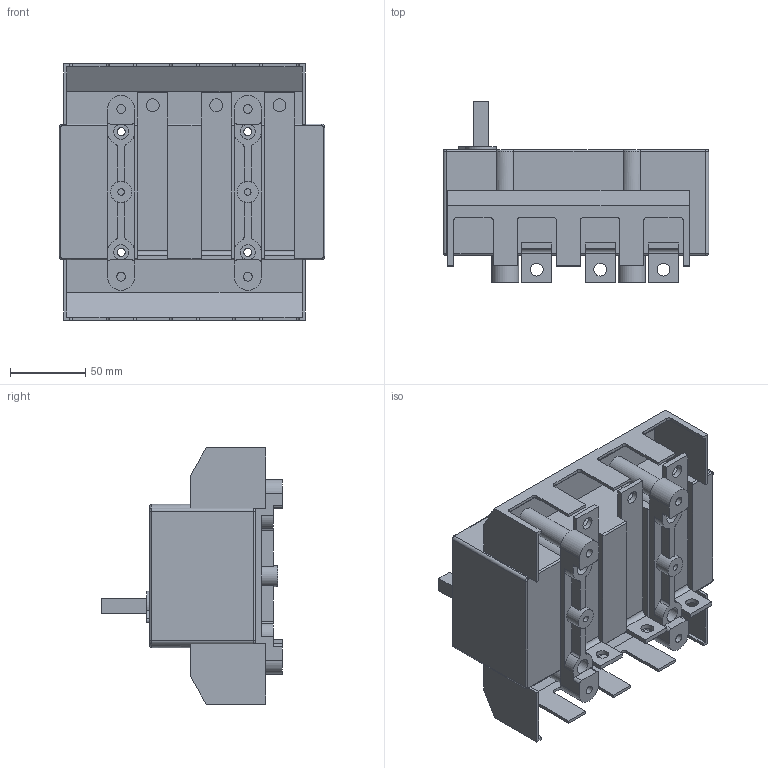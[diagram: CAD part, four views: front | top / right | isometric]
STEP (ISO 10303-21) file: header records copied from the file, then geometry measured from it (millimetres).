
FILE_DESCRIPTION(/* description */ (''),/* implementation_level */ '2;1');
FILE_NAME(/* name */ 'RA250 P3 B z oslona zaciskow.stp',/* time_stamp */ '2021-08-18T08:22:38+02:00',/* author */ (''),/* organization */ (''),/* preprocessor_version */ 'ST-DEVELOPER v18.1',/* originating_system */ 'SIEMENS PLM Software NX 1965',/* authorisation */ '');
FILE_SCHEMA (('AUTOMOTIVE_DESIGN { 1 0 10303 214 3 1 1 1 }'));
Length unit declared in the file: millimetre
Products named in the file (1): RA250 P3 B z oslona zaciskow_stp
Bounding box: 176 x 120 x 169.8 mm (x, y, z)
Volume: 1211956.5 mm3; surface area: 156726.4 mm2
Topology: 1 solids, 1 shells, 299 faces, 858 edges, 559 vertices
Faces by surface type: plane 166, cylinder 121, torus 7, bspline 5
Full cylindrical faces by diameter (mm): 4.3 x2, 5.3 x4, 5.8 x4, 8.5 x6, 10 x12, 13 x4, 14 x2
Entity records: 9646 total; most frequent: CARTESIAN_POINT 1796, DIRECTION 1643, ORIENTED_EDGE 1602, EDGE_CURVE 801, AXIS2_PLACEMENT_3D 563, VERTEX_POINT 536, LINE 517, VECTOR 517
